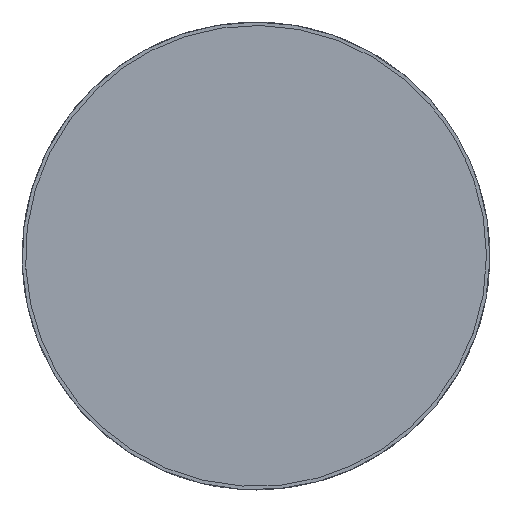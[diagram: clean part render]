
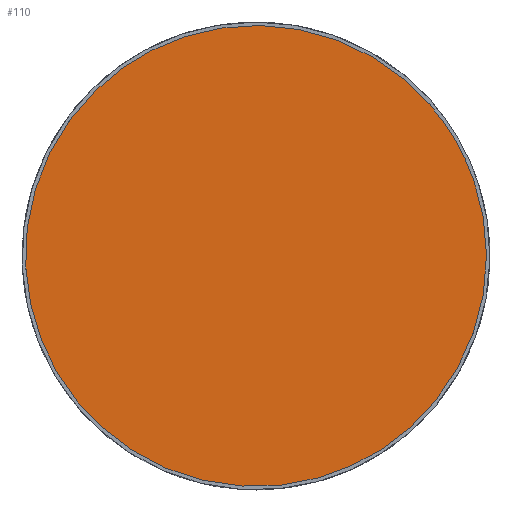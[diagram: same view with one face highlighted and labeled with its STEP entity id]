
A CAD part, top view. The second image highlights one B-rep face of the part: STEP entity #110.
In plain terms, the highlighted free-form (B-spline) face has degree [1, 1] with [2, 2] control points.
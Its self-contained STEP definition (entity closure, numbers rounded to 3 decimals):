
#44=B_SPLINE_SURFACE_WITH_KNOTS('',1,1,((#3243,#3244),(#3245,#3246)),
 .UNSPECIFIED.,.F.,.F.,.F.,(2,2),(2,2),(-450.,50.),(-250.,250.),
 .UNSPECIFIED.);
#110=ADVANCED_FACE('',(#172),#44,.T.);
#172=FACE_OUTER_BOUND('',#234,.T.);
#234=EDGE_LOOP('',(#355,#356));
#355=ORIENTED_EDGE('',*,*,#1379,.F.);
#356=ORIENTED_EDGE('',*,*,#1383,.T.);
#584=PCURVE('',#1703,#818);
#589=PCURVE('',#44,#823);
#590=PCURVE('',#44,#824);
#593=PCURVE('',#1704,#827);
#818=DEFINITIONAL_REPRESENTATION('',(#1058),#4297);
#823=DEFINITIONAL_REPRESENTATION('',(#1508),#4297);
#824=DEFINITIONAL_REPRESENTATION('',(#1510),#4297);
#827=DEFINITIONAL_REPRESENTATION('',(#1063),#4297);
#1058=B_SPLINE_CURVE_WITH_KNOTS('',1,(#3270,#3271),.UNSPECIFIED.,.F.,.F.,
(2,2),(-2199.115,0.),.UNSPECIFIED.);
#1063=B_SPLINE_CURVE_WITH_KNOTS('',1,(#3317,#3318),.UNSPECIFIED.,.F.,.F.,
(2,2),(2199.115,4398.23),.UNSPECIFIED.);
#1250=SURFACE_CURVE('',#1502,(#584,#589),.PCURVE_S1.);
#1254=SURFACE_CURVE('',#1509,(#590,#593),.PCURVE_S1.);
#1379=EDGE_CURVE('',#1639,#1637,#1250,.T.);
#1383=EDGE_CURVE('',#1639,#1637,#1254,.T.);
#1502=(
BOUNDED_CURVE()
B_SPLINE_CURVE(2,(#3265,#3266,#3267,#3268,#3269),.UNSPECIFIED.,.F.,.F.)
B_SPLINE_CURVE_WITH_KNOTS((3,2,3),(-2199.115,-1099.557,
0.),.UNSPECIFIED.)
CURVE()
GEOMETRIC_REPRESENTATION_ITEM()
RATIONAL_B_SPLINE_CURVE((1.,0.707,1.,0.707,1.))
REPRESENTATION_ITEM('')
);
#1508=(
BOUNDED_CURVE()
B_SPLINE_CURVE(2,(#3298,#3299,#3300,#3301,#3302),.UNSPECIFIED.,.F.,.F.)
B_SPLINE_CURVE_WITH_KNOTS((3,2,3),(-2199.115,-1099.557,
0.),.UNSPECIFIED.)
CURVE()
GEOMETRIC_REPRESENTATION_ITEM()
RATIONAL_B_SPLINE_CURVE((1.,0.707,1.,0.707,1.))
REPRESENTATION_ITEM('')
);
#1509=(
BOUNDED_CURVE()
B_SPLINE_CURVE(2,(#3303,#3304,#3305,#3306,#3307),.UNSPECIFIED.,.F.,.F.)
B_SPLINE_CURVE_WITH_KNOTS((3,2,3),(2199.115,3298.672,4398.23),
 .UNSPECIFIED.)
CURVE()
GEOMETRIC_REPRESENTATION_ITEM()
RATIONAL_B_SPLINE_CURVE((1.,0.707,1.,0.707,1.))
REPRESENTATION_ITEM('')
);
#1510=(
BOUNDED_CURVE()
B_SPLINE_CURVE(2,(#3308,#3309,#3310,#3311,#3312),.UNSPECIFIED.,.F.,.F.)
B_SPLINE_CURVE_WITH_KNOTS((3,2,3),(2199.115,3298.672,4398.23),
 .UNSPECIFIED.)
CURVE()
GEOMETRIC_REPRESENTATION_ITEM()
RATIONAL_B_SPLINE_CURVE((1.,0.707,1.,0.707,1.))
REPRESENTATION_ITEM('')
);
#1637=VERTEX_POINT('',#3258);
#1639=VERTEX_POINT('',#3260);
#1703=(
BOUNDED_SURFACE()
B_SPLINE_SURFACE(2,1,((#3229,#3230),(#3231,#3232),(#3233,#3234),(#3235,
#3236),(#3237,#3238)),.UNSPECIFIED.,.F.,.F.,.F.)
B_SPLINE_SURFACE_WITH_KNOTS((3,2,3),(2,2),(0.,1099.557,2199.115),
(0.,30.),.UNSPECIFIED.)
GEOMETRIC_REPRESENTATION_ITEM()
RATIONAL_B_SPLINE_SURFACE(((1.,1.),(0.707,0.707),
(1.,1.),(0.707,0.707),(1.,1.)))
REPRESENTATION_ITEM('')
SURFACE()
);
#1704=(
BOUNDED_SURFACE()
B_SPLINE_SURFACE(2,1,((#3247,#3248),(#3249,#3250),(#3251,#3252),(#3253,
#3254),(#3255,#3256)),.UNSPECIFIED.,.F.,.F.,.F.)
B_SPLINE_SURFACE_WITH_KNOTS((3,2,3),(2,2),(2199.115,3298.672,
4398.23),(0.,30.),.UNSPECIFIED.)
GEOMETRIC_REPRESENTATION_ITEM()
RATIONAL_B_SPLINE_SURFACE(((1.,1.),(0.707,0.707),
(1.,1.),(0.707,0.707),(1.,1.)))
REPRESENTATION_ITEM('')
SURFACE()
);
#3229=CARTESIAN_POINT('',(-3432.132,762.846,114.723));
#3230=CARTESIAN_POINT('',(-3432.132,762.846,134.723));
#3231=CARTESIAN_POINT('',(-3532.132,936.051,114.723));
#3232=CARTESIAN_POINT('',(-3532.132,936.051,134.723));
#3233=CARTESIAN_POINT('',(-3705.337,836.051,114.723));
#3234=CARTESIAN_POINT('',(-3705.337,836.051,134.723));
#3235=CARTESIAN_POINT('',(-3878.542,736.051,114.723));
#3236=CARTESIAN_POINT('',(-3878.542,736.051,134.723));
#3237=CARTESIAN_POINT('',(-3778.542,562.846,114.723));
#3238=CARTESIAN_POINT('',(-3778.542,562.846,134.723));
#3243=CARTESIAN_POINT('',(-3696.844,321.339,134.723));
#3244=CARTESIAN_POINT('',(-3946.844,754.352,134.723));
#3245=CARTESIAN_POINT('',(-3263.831,571.339,134.723));
#3246=CARTESIAN_POINT('',(-3513.831,1004.352,134.723));
#3247=CARTESIAN_POINT('',(-3778.542,562.846,114.723));
#3248=CARTESIAN_POINT('',(-3778.542,562.846,134.723));
#3249=CARTESIAN_POINT('',(-3678.542,389.641,114.723));
#3250=CARTESIAN_POINT('',(-3678.542,389.641,134.723));
#3251=CARTESIAN_POINT('',(-3505.337,489.641,114.723));
#3252=CARTESIAN_POINT('',(-3505.337,489.641,134.723));
#3253=CARTESIAN_POINT('',(-3332.132,589.641,114.723));
#3254=CARTESIAN_POINT('',(-3332.132,589.641,134.723));
#3255=CARTESIAN_POINT('',(-3432.132,762.846,114.723));
#3256=CARTESIAN_POINT('',(-3432.132,762.846,134.723));
#3258=CARTESIAN_POINT('',(-3432.132,762.846,134.723));
#3260=CARTESIAN_POINT('',(-3778.542,562.846,134.723));
#3265=CARTESIAN_POINT('',(-3778.542,562.846,134.723));
#3266=CARTESIAN_POINT('',(-3878.542,736.051,134.723));
#3267=CARTESIAN_POINT('',(-3705.337,836.051,134.723));
#3268=CARTESIAN_POINT('',(-3532.132,936.051,134.723));
#3269=CARTESIAN_POINT('',(-3432.132,762.846,134.723));
#3270=CARTESIAN_POINT('',(2199.115,30.));
#3271=CARTESIAN_POINT('',(0.,30.));
#3298=CARTESIAN_POINT('',(-400.,0.));
#3299=CARTESIAN_POINT('',(-400.,200.));
#3300=CARTESIAN_POINT('',(-200.,200.));
#3301=CARTESIAN_POINT('',(0.,200.));
#3302=CARTESIAN_POINT('',(0.,0.));
#3303=CARTESIAN_POINT('',(-3778.542,562.846,134.723));
#3304=CARTESIAN_POINT('',(-3678.542,389.641,134.723));
#3305=CARTESIAN_POINT('',(-3505.337,489.641,134.723));
#3306=CARTESIAN_POINT('',(-3332.132,589.641,134.723));
#3307=CARTESIAN_POINT('',(-3432.132,762.846,134.723));
#3308=CARTESIAN_POINT('',(-400.,0.));
#3309=CARTESIAN_POINT('',(-400.,-200.));
#3310=CARTESIAN_POINT('',(-200.,-200.));
#3311=CARTESIAN_POINT('',(0.,-200.));
#3312=CARTESIAN_POINT('',(0.,0.));
#3317=CARTESIAN_POINT('',(2199.115,30.));
#3318=CARTESIAN_POINT('',(4398.23,30.));
#4297=(
GEOMETRIC_REPRESENTATION_CONTEXT(2)
PARAMETRIC_REPRESENTATION_CONTEXT()
REPRESENTATION_CONTEXT('pspace','')
);
